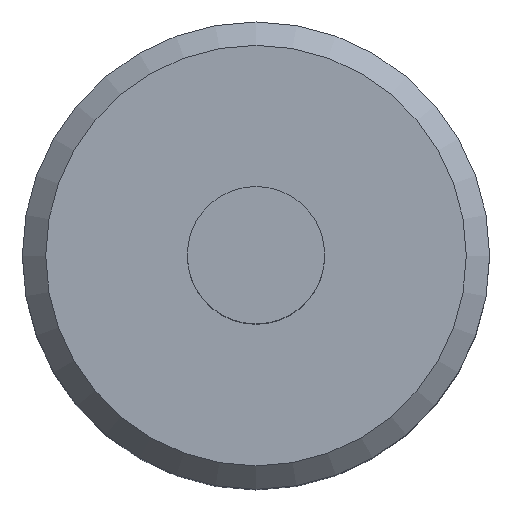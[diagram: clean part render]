
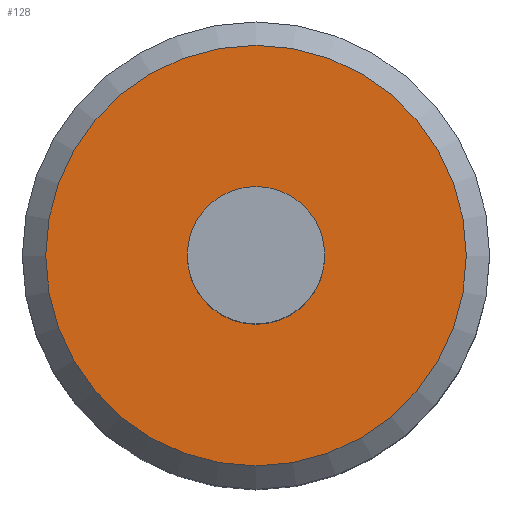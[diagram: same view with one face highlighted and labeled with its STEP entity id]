
A CAD part, top view. The second image highlights one B-rep face of the part: STEP entity #128.
In plain terms, the highlighted planar face has unit normal (0, 0, 1).
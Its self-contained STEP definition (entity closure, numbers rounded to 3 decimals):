
#17=FACE_BOUND('',#44,.T.);
#20=PLANE('',#159);
#31=FACE_OUTER_BOUND('',#43,.T.);
#43=EDGE_LOOP('',(#110));
#44=EDGE_LOOP('',(#111));
#63=CIRCLE('',#156,9.);
#65=CIRCLE('',#160,2.942);
#72=VERTEX_POINT('',#228);
#74=VERTEX_POINT('',#236);
#83=EDGE_CURVE('',#72,#72,#63,.T.);
#87=EDGE_CURVE('',#74,#74,#65,.T.);
#110=ORIENTED_EDGE('',*,*,#83,.F.);
#111=ORIENTED_EDGE('',*,*,#87,.T.);
#128=ADVANCED_FACE('',(#31,#17),#20,.T.);
#156=AXIS2_PLACEMENT_3D('',#229,#189,#190);
#159=AXIS2_PLACEMENT_3D('',#235,#197,#198);
#160=AXIS2_PLACEMENT_3D('',#237,#199,#200);
#189=DIRECTION('center_axis',(0.,0.,-1.));
#190=DIRECTION('ref_axis',(1.,0.,0.));
#197=DIRECTION('center_axis',(0.,0.,1.));
#198=DIRECTION('ref_axis',(1.,0.,0.));
#199=DIRECTION('center_axis',(0.,0.,-1.));
#200=DIRECTION('ref_axis',(-1.,0.,0.));
#228=CARTESIAN_POINT('',(-9.,0.,18.));
#229=CARTESIAN_POINT('Origin',(0.,0.,18.));
#235=CARTESIAN_POINT('Origin',(0.,0.,18.));
#236=CARTESIAN_POINT('',(2.942,0.,18.));
#237=CARTESIAN_POINT('Origin',(0.,0.,18.));
